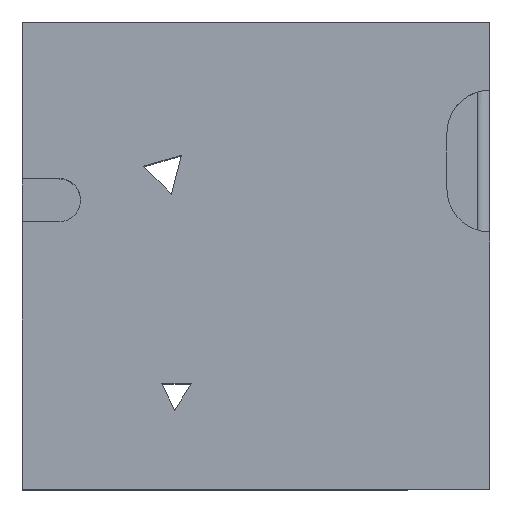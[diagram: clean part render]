
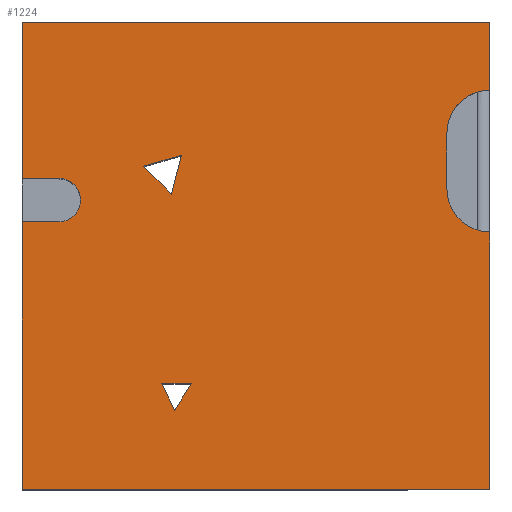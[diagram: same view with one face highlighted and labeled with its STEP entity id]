
A CAD part, top view. The second image highlights one B-rep face of the part: STEP entity #1224.
In plain terms, the highlighted planar face has unit normal (0, 0, 1).
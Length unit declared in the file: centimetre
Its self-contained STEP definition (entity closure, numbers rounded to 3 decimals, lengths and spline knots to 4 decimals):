
#7 = VECTOR ( 'NONE', #1264, 100. ) ;
#14 = VERTEX_POINT ( 'NONE', #1814 ) ;
#32 = CIRCLE ( 'NONE', #332, 46.7848 ) ;
#74 = VECTOR ( 'NONE', #1897, 100. ) ;
#77 = LINE ( 'NONE', #337, #595 ) ;
#85 = CARTESIAN_POINT ( 'NONE',  ( 1000., 550.5144, 1000. ) ) ;
#91 = VERTEX_POINT ( 'NONE', #1846 ) ;
#114 = LINE ( 'NONE', #1874, #1332 ) ;
#125 = DIRECTION ( 'NONE',  ( 1., 0., 0. ) ) ;
#139 = EDGE_CURVE ( 'NONE', #358, #1142, #1440, .T. ) ;
#141 = ORIENTED_EDGE ( 'NONE', *, *, #1570, .T. ) ;
#144 = FACE_BOUND ( 'NONE', #463, .T. ) ;
#163 = VECTOR ( 'NONE', #522, 100. ) ;
#183 = ORIENTED_EDGE ( 'NONE', *, *, #139, .T. ) ;
#191 = ORIENTED_EDGE ( 'NONE', *, *, #569, .F. ) ;
#203 = ORIENTED_EDGE ( 'NONE', *, *, #1238, .T. ) ;
#210 = DIRECTION ( 'NONE',  ( 0., 0., 1. ) ) ;
#211 = ORIENTED_EDGE ( 'NONE', *, *, #691, .T. ) ;
#212 = DIRECTION ( 'NONE',  ( 1., 0., 0. ) ) ;
#223 = VERTEX_POINT ( 'NONE', #721 ) ;
#243 = DIRECTION ( 'NONE',  ( -1., 0., 0. ) ) ;
#246 = EDGE_CURVE ( 'NONE', #689, #776, #77, .T. ) ;
#265 = EDGE_LOOP ( 'NONE', ( #391, #1315, #1812 ) ) ;
#287 = CIRCLE ( 'NONE', #1779, 46.7848 ) ;
#299 = VECTOR ( 'NONE', #1191, 100. ) ;
#310 = VERTEX_POINT ( 'NONE', #1565 ) ;
#332 = AXIS2_PLACEMENT_3D ( 'NONE', #835, #398, #212 ) ;
#333 = AXIS2_PLACEMENT_3D ( 'NONE', #868, #1346, #1992 ) ;
#335 = CARTESIAN_POINT ( 'NONE',  ( 77.7374, 618.9148, 1000. ) ) ;
#337 = CARTESIAN_POINT ( 'NONE',  ( 77.7374, 665.6996, 1000. ) ) ;
#343 = FACE_BOUND ( 'NONE', #265, .T. ) ;
#345 = EDGE_CURVE ( 'NONE', #1730, #761, #1239, .T. ) ;
#358 = VERTEX_POINT ( 'NONE', #582 ) ;
#367 = LINE ( 'NONE', #1231, #1658 ) ;
#377 = LINE ( 'NONE', #847, #1124 ) ;
#391 = ORIENTED_EDGE ( 'NONE', *, *, #1076, .T. ) ;
#398 = DIRECTION ( 'NONE',  ( 0., 0., 1. ) ) ;
#455 = DIRECTION ( 'NONE',  ( 1., 0., 0. ) ) ;
#463 = EDGE_LOOP ( 'NONE', ( #1910, #183, #1327 ) ) ;
#503 = CARTESIAN_POINT ( 'NONE',  ( 319.0013, 631.5364, 1000. ) ) ;
#519 = DIRECTION ( 'NONE',  ( -0.707, 0.707, 0. ) ) ;
#522 = DIRECTION ( 'NONE',  ( -1., 0., 0. ) ) ;
#526 = DIRECTION ( 'NONE',  ( 1., 0., 0. ) ) ;
#569 = EDGE_CURVE ( 'NONE', #1995, #689, #32, .T. ) ;
#582 = CARTESIAN_POINT ( 'NONE',  ( 340.4046, 714.8588, 1000. ) ) ;
#595 = VECTOR ( 'NONE', #243, 100. ) ;
#646 = CARTESIAN_POINT ( 'NONE',  ( 124.5222, 618.9148, 1000. ) ) ;
#652 = EDGE_CURVE ( 'NONE', #1142, #1451, #377, .T. ) ;
#654 = LINE ( 'NONE', #1291, #163 ) ;
#655 = CIRCLE ( 'NONE', #1825, 91.2552 ) ;
#659 = VECTOR ( 'NONE', #1702, 100. ) ;
#661 = EDGE_CURVE ( 'NONE', #1803, #776, #1314, .T. ) ;
#689 = VERTEX_POINT ( 'NONE', #1789 ) ;
#691 = EDGE_CURVE ( 'NONE', #1060, #1731, #367, .T. ) ;
#710 = CARTESIAN_POINT ( 'NONE',  ( 319.0013, 631.5364, 1000. ) ) ;
#721 = CARTESIAN_POINT ( 'NONE',  ( 361.7516, 226.2287, 1000. ) ) ;
#742 = ORIENTED_EDGE ( 'NONE', *, *, #1002, .T. ) ;
#761 = VERTEX_POINT ( 'NONE', #1201 ) ;
#769 = CARTESIAN_POINT ( 'NONE',  ( 0., 665.6996, 1000. ) ) ;
#776 = VERTEX_POINT ( 'NONE', #769 ) ;
#777 = EDGE_CURVE ( 'NONE', #223, #1084, #2003, .T. ) ;
#789 = VECTOR ( 'NONE', #1190, 100. ) ;
#801 = CARTESIAN_POINT ( 'NONE',  ( 908.7448, 641.7695, 1000. ) ) ;
#809 = DIRECTION ( 'NONE',  ( 1., 0., 0. ) ) ;
#835 = CARTESIAN_POINT ( 'NONE',  ( 77.7374, 618.9148, 1000. ) ) ;
#843 = EDGE_CURVE ( 'NONE', #91, #1312, #655, .T. ) ;
#847 = CARTESIAN_POINT ( 'NONE',  ( 259.2656, 691.2721, 1000. ) ) ;
#854 = VECTOR ( 'NONE', #1047, 100. ) ;
#868 = CARTESIAN_POINT ( 'NONE',  ( 1000., 762.7972, 1000. ) ) ;
#869 = CARTESIAN_POINT ( 'NONE',  ( 1000., 854.0524, 1000. ) ) ;
#886 = CARTESIAN_POINT ( 'NONE',  ( 1000., 1000., 1000. ) ) ;
#914 = ORIENTED_EDGE ( 'NONE', *, *, #1573, .F. ) ;
#917 = VERTEX_POINT ( 'NONE', #2050 ) ;
#921 = EDGE_CURVE ( 'NONE', #310, #91, #1918, .T. ) ;
#933 = PLANE ( 'NONE',  #2056 ) ;
#974 = CARTESIAN_POINT ( 'NONE',  ( 1000., 641.7695, 1000. ) ) ;
#992 = EDGE_CURVE ( 'NONE', #1730, #310, #1059, .T. ) ;
#998 = DIRECTION ( 'NONE',  ( 1., 0., 0. ) ) ;
#1002 = EDGE_CURVE ( 'NONE', #917, #1312, #1489, .T. ) ;
#1039 = CARTESIAN_POINT ( 'NONE',  ( 0., 0., 1000. ) ) ;
#1047 = DIRECTION ( 'NONE',  ( 0.96, 0.279, 0. ) ) ;
#1048 = VECTOR ( 'NONE', #998, 100. ) ;
#1058 = CARTESIAN_POINT ( 'NONE',  ( 325.6998, 168.6693, 1000. ) ) ;
#1059 = CIRCLE ( 'NONE', #333, 91.2552 ) ;
#1060 = VERTEX_POINT ( 'NONE', #2001 ) ;
#1076 = EDGE_CURVE ( 'NONE', #1405, #223, #114, .T. ) ;
#1084 = VERTEX_POINT ( 'NONE', #1893 ) ;
#1103 = CARTESIAN_POINT ( 'NONE',  ( 298.1076, 226.2287, 1000. ) ) ;
#1109 = DIRECTION ( 'NONE',  ( 0., 0., 1. ) ) ;
#1124 = VECTOR ( 'NONE', #519, 100. ) ;
#1142 = VERTEX_POINT ( 'NONE', #503 ) ;
#1169 = LINE ( 'NONE', #1786, #1048 ) ;
#1172 = ORIENTED_EDGE ( 'NONE', *, *, #843, .F. ) ;
#1190 = DIRECTION ( 'NONE',  ( 0., 1., 0. ) ) ;
#1191 = DIRECTION ( 'NONE',  ( 0., -1., 0. ) ) ;
#1201 = CARTESIAN_POINT ( 'NONE',  ( 1000., 1000., 1000. ) ) ;
#1224 = ADVANCED_FACE ( 'NONE', ( #1605, #343, #144 ), #933, .T. ) ;
#1231 = CARTESIAN_POINT ( 'NONE',  ( 0., 1000., 1000. ) ) ;
#1234 = EDGE_LOOP ( 'NONE', ( #1172, #1546, #1558, #1719, #203, #1495, #1865, #191, #914, #1902, #211, #141, #742 ) ) ;
#1238 = EDGE_CURVE ( 'NONE', #761, #1803, #654, .T. ) ;
#1239 = LINE ( 'NONE', #886, #659 ) ;
#1241 = CARTESIAN_POINT ( 'NONE',  ( 0., 572.13, 1000. ) ) ;
#1264 = DIRECTION ( 'NONE',  ( -0.432, 0.902, 0. ) ) ;
#1287 = VECTOR ( 'NONE', #1927, 100. ) ;
#1291 = CARTESIAN_POINT ( 'NONE',  ( 0., 1000., 1000. ) ) ;
#1312 = VERTEX_POINT ( 'NONE', #85 ) ;
#1314 = LINE ( 'NONE', #1338, #299 ) ;
#1315 = ORIENTED_EDGE ( 'NONE', *, *, #777, .T. ) ;
#1325 = CARTESIAN_POINT ( 'NONE',  ( 1000., 1000., 1000. ) ) ;
#1327 = ORIENTED_EDGE ( 'NONE', *, *, #652, .T. ) ;
#1332 = VECTOR ( 'NONE', #455, 100. ) ;
#1338 = CARTESIAN_POINT ( 'NONE',  ( 0., 1000., 1000. ) ) ;
#1346 = DIRECTION ( 'NONE',  ( 0., 0., 1. ) ) ;
#1394 = CARTESIAN_POINT ( 'NONE',  ( 298.1076, 226.2287, 1000. ) ) ;
#1405 = VERTEX_POINT ( 'NONE', #1394 ) ;
#1413 = DIRECTION ( 'NONE',  ( 0., 0., 1. ) ) ;
#1425 = DIRECTION ( 'NONE',  ( -1., 0., 0. ) ) ;
#1440 = LINE ( 'NONE', #710, #1951 ) ;
#1451 = VERTEX_POINT ( 'NONE', #1898 ) ;
#1453 = EDGE_CURVE ( 'NONE', #1084, #1405, #2028, .T. ) ;
#1489 = LINE ( 'NONE', #1325, #789 ) ;
#1495 = ORIENTED_EDGE ( 'NONE', *, *, #661, .T. ) ;
#1522 = LINE ( 'NONE', #1821, #854 ) ;
#1541 = LINE ( 'NONE', #1241, #1681 ) ;
#1544 = DIRECTION ( 'NONE',  ( 0., -1., 0. ) ) ;
#1546 = ORIENTED_EDGE ( 'NONE', *, *, #921, .F. ) ;
#1558 = ORIENTED_EDGE ( 'NONE', *, *, #992, .F. ) ;
#1565 = CARTESIAN_POINT ( 'NONE',  ( 908.7448, 762.7972, 1000. ) ) ;
#1570 = EDGE_CURVE ( 'NONE', #1731, #917, #1169, .T. ) ;
#1573 = EDGE_CURVE ( 'NONE', #14, #1995, #287, .T. ) ;
#1586 = CARTESIAN_POINT ( 'NONE',  ( 0., 0., 1000. ) ) ;
#1605 = FACE_OUTER_BOUND ( 'NONE', #1234, .T. ) ;
#1658 = VECTOR ( 'NONE', #1544, 100. ) ;
#1676 = CARTESIAN_POINT ( 'NONE',  ( 0., 1000., 1000. ) ) ;
#1681 = VECTOR ( 'NONE', #125, 100. ) ;
#1702 = DIRECTION ( 'NONE',  ( 0., 1., 0. ) ) ;
#1719 = ORIENTED_EDGE ( 'NONE', *, *, #345, .T. ) ;
#1730 = VERTEX_POINT ( 'NONE', #869 ) ;
#1731 = VERTEX_POINT ( 'NONE', #1039 ) ;
#1750 = EDGE_CURVE ( 'NONE', #1451, #358, #1522, .T. ) ;
#1779 = AXIS2_PLACEMENT_3D ( 'NONE', #335, #210, #526 ) ;
#1786 = CARTESIAN_POINT ( 'NONE',  ( 0., 0., 1000. ) ) ;
#1789 = CARTESIAN_POINT ( 'NONE',  ( 77.7374, 665.6996, 1000. ) ) ;
#1803 = VERTEX_POINT ( 'NONE', #1676 ) ;
#1812 = ORIENTED_EDGE ( 'NONE', *, *, #1453, .T. ) ;
#1814 = CARTESIAN_POINT ( 'NONE',  ( 77.7374, 572.13, 1000. ) ) ;
#1821 = CARTESIAN_POINT ( 'NONE',  ( 340.4046, 714.8588, 1000. ) ) ;
#1825 = AXIS2_PLACEMENT_3D ( 'NONE', #974, #1413, #1425 ) ;
#1846 = CARTESIAN_POINT ( 'NONE',  ( 908.7448, 641.7695, 1000. ) ) ;
#1865 = ORIENTED_EDGE ( 'NONE', *, *, #246, .F. ) ;
#1874 = CARTESIAN_POINT ( 'NONE',  ( 361.7516, 226.2287, 1000. ) ) ;
#1893 = CARTESIAN_POINT ( 'NONE',  ( 325.6998, 168.6693, 1000. ) ) ;
#1897 = DIRECTION ( 'NONE',  ( 0., -1., 0. ) ) ;
#1898 = CARTESIAN_POINT ( 'NONE',  ( 259.2656, 691.2721, 1000. ) ) ;
#1902 = ORIENTED_EDGE ( 'NONE', *, *, #1923, .F. ) ;
#1910 = ORIENTED_EDGE ( 'NONE', *, *, #1750, .T. ) ;
#1918 = LINE ( 'NONE', #801, #74 ) ;
#1923 = EDGE_CURVE ( 'NONE', #1060, #14, #1541, .T. ) ;
#1927 = DIRECTION ( 'NONE',  ( -0.531, -0.847, 0. ) ) ;
#1951 = VECTOR ( 'NONE', #1991, 100. ) ;
#1991 = DIRECTION ( 'NONE',  ( -0.249, -0.969, 0. ) ) ;
#1992 = DIRECTION ( 'NONE',  ( -1., 0., 0. ) ) ;
#1995 = VERTEX_POINT ( 'NONE', #646 ) ;
#2001 = CARTESIAN_POINT ( 'NONE',  ( 0., 572.13, 1000. ) ) ;
#2003 = LINE ( 'NONE', #1058, #1287 ) ;
#2028 = LINE ( 'NONE', #1103, #7 ) ;
#2050 = CARTESIAN_POINT ( 'NONE',  ( 1000., 0., 1000. ) ) ;
#2056 = AXIS2_PLACEMENT_3D ( 'NONE', #1586, #1109, #809 ) ;
